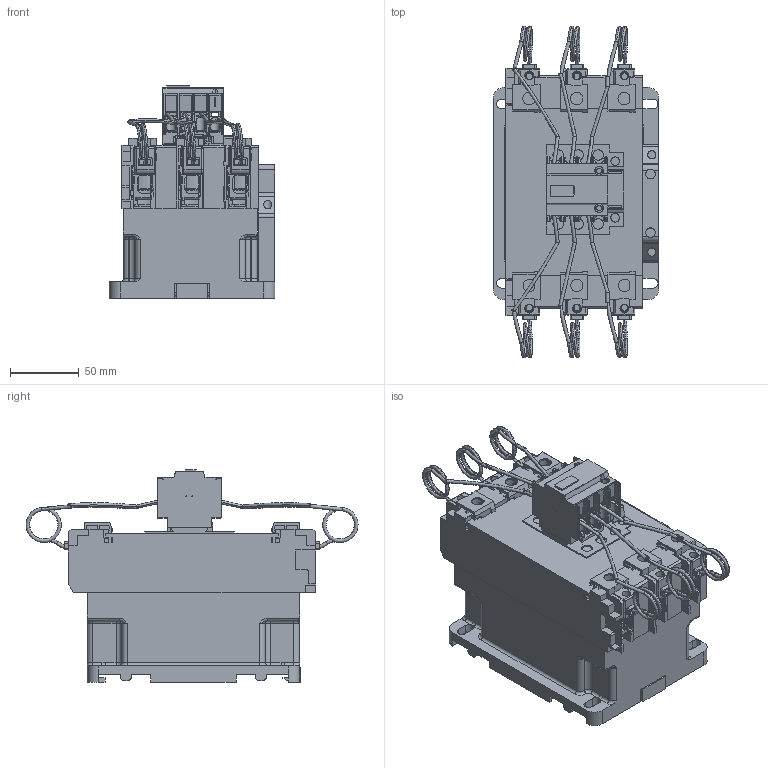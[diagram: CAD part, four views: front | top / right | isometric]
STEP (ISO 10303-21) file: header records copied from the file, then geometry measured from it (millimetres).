
FILE_DESCRIPTION(/* description */ (''),/* implementation_level */ '2;1');
FILE_NAME(/* name */ 'm5681_ent-kt-100_3D.stp',/* time_stamp */ '2026-04-16T15:49:52+03:00',/* author */ (''),/* organization */ (''),/* preprocessor_version */ 'ST-DEVELOPER v20',/* originating_system */ 'SIEMENS PLM Software NX2406.5001',/* authorisation */ '');
FILE_SCHEMA (('AP203_CONFIGURATION_CONTROLLED_3D_DESIGN_OF_MECHANICAL_PARTS_AND_ASSEMBLIES_MIM_LF { 1 0 10303 403 2 1 2}'));
Products named in the file (1): m5681_ent-kt-100_objects
Bounding box: 120 x 240.74 x 154 mm (x, y, z)
Volume: 1597363.4 mm3; surface area: 250569.4 mm2
Topology: 2 solids, 15 shells, 5448 faces, 16518 edges, 10734 vertices
Faces by surface type: plane 4005, cylinder 1138, torus 165, bspline 79, sphere 28, cone 16, extrusion 13, revolution 4
Full cylindrical faces by diameter (mm): 6 x2, 7 x2
Entity records: 191150 total; most frequent: CARTESIAN_POINT 43045, ORIENTED_EDGE 32944, DIRECTION 28570, EDGE_CURVE 16472, VECTOR 12688, LINE 12675, VERTEX_POINT 10730, AXIS2_PLACEMENT_3D 7939
